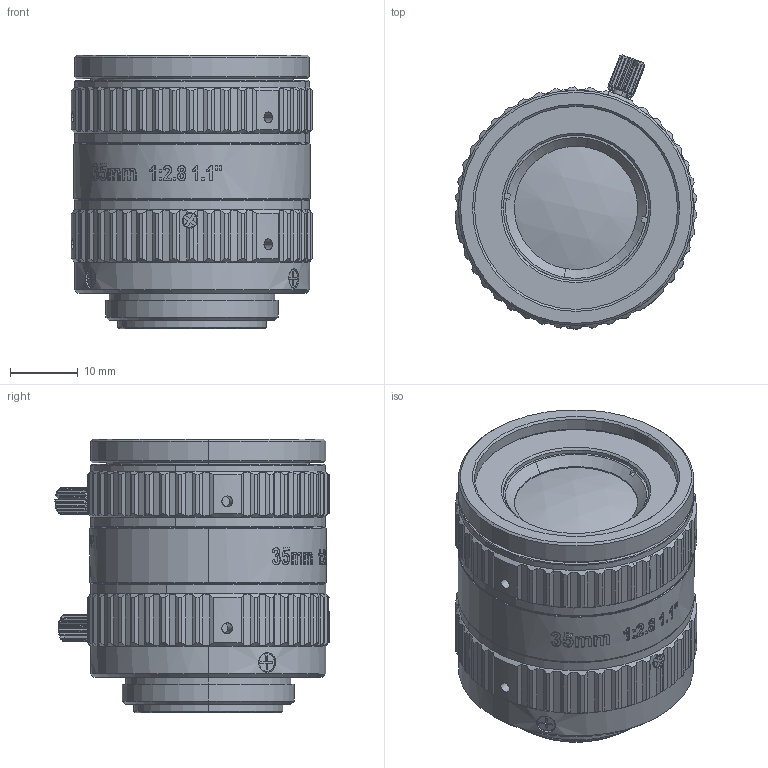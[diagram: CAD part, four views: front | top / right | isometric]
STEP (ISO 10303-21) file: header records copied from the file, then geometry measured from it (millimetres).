
FILE_DESCRIPTION((''),'2;1');
FILE_NAME('35MM_1_1INCH_ASM_ASM','2021-08-07T08:40:30',('Administrator'),(''),'CREO PARAMETRIC BY PTC INC, 2020053','CREO PARAMETRIC BY PTC INC, 2020053','');
FILE_SCHEMA(('CONFIG_CONTROL_DESIGN'));
Products named in the file (2): _35MM_1_1INCH_ASM; 35MM_1_1INCH_ASM_ASM
Assembly tree (1 placements, depth 2):
  35MM_1_1INCH_ASM_ASM
    _35MM_1_1INCH_ASM
Bounding box: 35.67 x 40.46 x 40.38 mm (x, y, z)
Volume: 18827.2 mm3; surface area: 22621.4 mm2
Topology: 2 solids, 9 shells, 1558 faces, 4181 edges, 2744 vertices
Faces by surface type: plane 693, cylinder 407, bspline 251, cone 149, extrusion 44, torus 8, sphere 6
Entity records: 65696 total; most frequent: CARTESIAN_POINT 28993, ORIENTED_EDGE 8332, DIRECTION 6475, EDGE_CURVE 4169, VERTEX_POINT 2744, AXIS2_PLACEMENT_3D 2346, VECTOR 1783, LINE 1739
